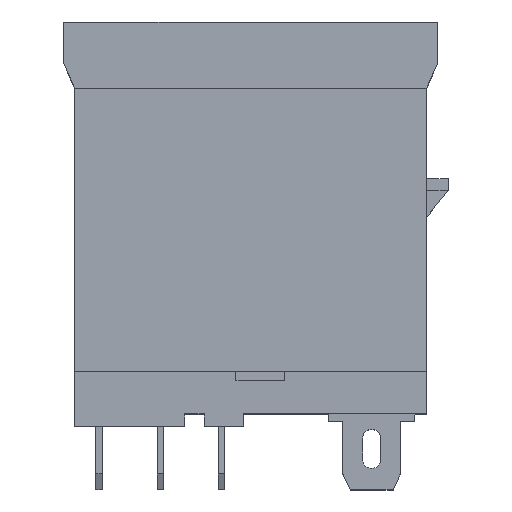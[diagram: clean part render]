
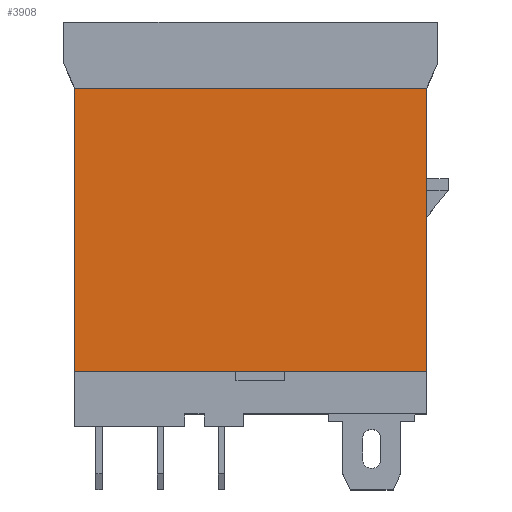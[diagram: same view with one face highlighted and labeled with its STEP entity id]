
A CAD part, top view. The second image highlights one B-rep face of the part: STEP entity #3908.
In plain terms, the highlighted planar face has unit normal (0, 0, 1).
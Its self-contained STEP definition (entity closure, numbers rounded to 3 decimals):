
#357 = ORIENTED_EDGE ( 'NONE', *, *, #2918, .T. ) ;
#564 = LINE ( 'NONE', #6080, #1897 ) ;
#565 = VERTEX_POINT ( 'NONE', #3737 ) ;
#580 = AXIS2_PLACEMENT_3D ( 'NONE', #7031, #4235, #925 ) ;
#652 = CARTESIAN_POINT ( 'NONE',  ( 0., 0., 0. ) ) ;
#859 = CARTESIAN_POINT ( 'NONE',  ( 28.8, -23.15, 0. ) ) ;
#925 = DIRECTION ( 'NONE',  ( 1., 0., 0. ) ) ;
#991 = ORIENTED_EDGE ( 'NONE', *, *, #2671, .T. ) ;
#1078 = DIRECTION ( 'NONE',  ( -1., 0., 0. ) ) ;
#1897 = VECTOR ( 'NONE', #1078, 1000. ) ;
#1978 = DIRECTION ( 'NONE',  ( 0., 1., 0. ) ) ;
#2116 = LINE ( 'NONE', #6993, #4758 ) ;
#2197 = DIRECTION ( 'NONE',  ( 1., 0., 0. ) ) ;
#2390 = VERTEX_POINT ( 'NONE', #859 ) ;
#2671 = EDGE_CURVE ( 'NONE', #3363, #2390, #7210, .T. ) ;
#2852 = CARTESIAN_POINT ( 'NONE',  ( 0., -23.15, 0. ) ) ;
#2918 = EDGE_CURVE ( 'NONE', #2390, #565, #2116, .T. ) ;
#3363 = VERTEX_POINT ( 'NONE', #6577 ) ;
#3500 = LINE ( 'NONE', #652, #4568 ) ;
#3593 = ORIENTED_EDGE ( 'NONE', *, *, #6274, .T. ) ;
#3737 = CARTESIAN_POINT ( 'NONE',  ( 28.8, 0., 0. ) ) ;
#3908 = ADVANCED_FACE ( 'NONE', ( #4786 ), #5927, .T. ) ;
#4149 = ORIENTED_EDGE ( 'NONE', *, *, #5895, .T. ) ;
#4235 = DIRECTION ( 'NONE',  ( 0., 0., 1. ) ) ;
#4568 = VECTOR ( 'NONE', #4592, 1000. ) ;
#4592 = DIRECTION ( 'NONE',  ( 0., -1., 0. ) ) ;
#4758 = VECTOR ( 'NONE', #1978, 1000. ) ;
#4786 = FACE_OUTER_BOUND ( 'NONE', #5974, .T. ) ;
#5699 = VECTOR ( 'NONE', #2197, 1000. ) ;
#5895 = EDGE_CURVE ( 'NONE', #6876, #3363, #3500, .T. ) ;
#5927 = PLANE ( 'NONE',  #580 ) ;
#5955 = CARTESIAN_POINT ( 'NONE',  ( 0., 0., 0. ) ) ;
#5974 = EDGE_LOOP ( 'NONE', ( #4149, #991, #357, #3593 ) ) ;
#6080 = CARTESIAN_POINT ( 'NONE',  ( 0., 0., 0. ) ) ;
#6274 = EDGE_CURVE ( 'NONE', #565, #6876, #564, .T. ) ;
#6577 = CARTESIAN_POINT ( 'NONE',  ( 0., -23.15, 0. ) ) ;
#6876 = VERTEX_POINT ( 'NONE', #5955 ) ;
#6993 = CARTESIAN_POINT ( 'NONE',  ( 28.8, 0., 0. ) ) ;
#7031 = CARTESIAN_POINT ( 'NONE',  ( 0., 0., 0. ) ) ;
#7210 = LINE ( 'NONE', #2852, #5699 ) ;
